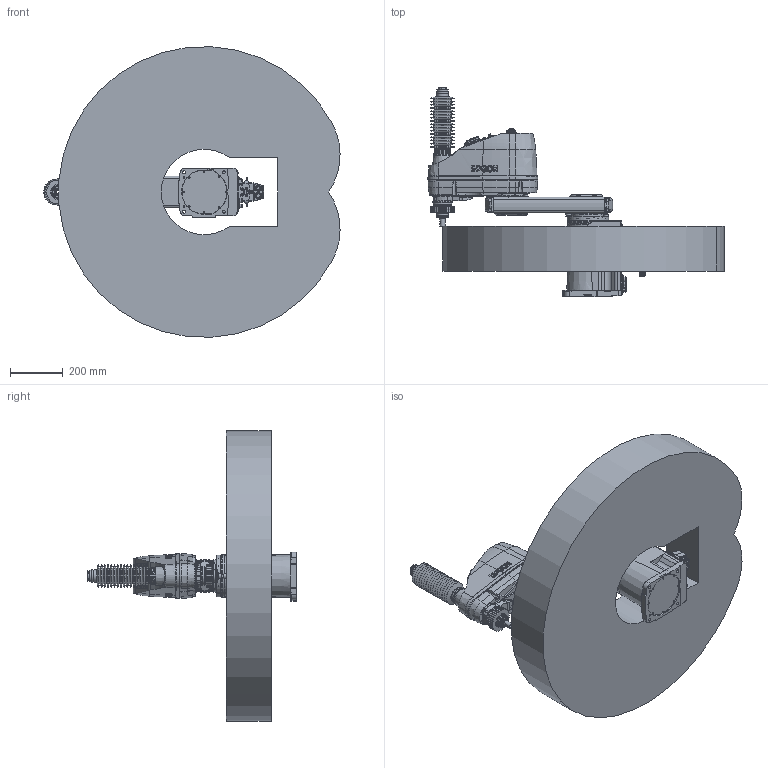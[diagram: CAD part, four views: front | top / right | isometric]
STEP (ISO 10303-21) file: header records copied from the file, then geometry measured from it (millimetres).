
FILE_DESCRIPTION( ( 'STEP AP214' ), '1' );
FILE_NAME( 'C:/Users/9607552/Desktop/GX8-B552P_langle.stp', '2023-07-07T02:34:23', ( '' ), ( '' ), ' ', 'PARTsolutions', ' ' );
FILE_SCHEMA( ( 'AUTOMOTIVE_DESIGN { 1 0 10303 214 1 1 1 1 }' ) );
Length unit declared in the file: millimetre
Products named in the file (11): GX8-B552PA-W; _B452P_BASE; _B552C; _B552C_1; _B552C_2; _B452P_J2; _B452CZA; _1-B-long; _1-B-short; _Angle-B; _GX8-16-B_WS
Assembly tree (12 placements, depth 2):
  GX8-B552PA-W
    _B452P_BASE
    _B552C
    _B552C_1  x2
    _B552C_2  x2
    _B452P_J2
    _B452CZA
    _1-B-long
    _1-B-short
    _Angle-B
    _GX8-16-B_WS
Bounding box: 1119.76 x 791.5 x 1098.33 mm (x, y, z)
Volume: 162969638.7 mm3; surface area: 3925986.6 mm2
Topology: 12 solids, 17 shells, 3368 faces, 8072 edges, 5233 vertices
Faces by surface type: plane 1663, cylinder 1112, cone 397, torus 154, bspline 37, sphere 5
Full cylindrical faces by diameter (mm): 1 x24, 1.18 x55, 1.2 x24, 2.261 x4, 2.459 x4, 3 x32, 3.242 x18, 3.3 x4, 3.9 x4, 4.2 x8, 4.5 x12, 4.8 x4, 5.34 x4, 5.5 x25, 6 x5, 6.2 x4, 6.4 x1, 6.647 x4, 6.8 x2, 7 x48, 7.4 x1, 8 x5, 8.5 x4, 9 x24, 10 x18, 11 x4, 11.2 x5, 12 x5, 12.2 x1, 12.25 x1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
Entity records: 119167 total; most frequent: CARTESIAN_POINT 21934, DIRECTION 14949, ORIENTED_EDGE 13334, EDGE_CURVE 6667, AXIS2_PLACEMENT_3D 5829, VERTEX_POINT 4846, EDGE_LOOP 4599, FACE_OUTER_BOUND 3804
